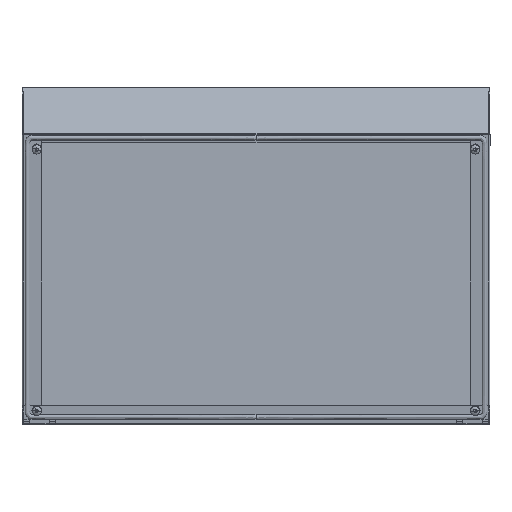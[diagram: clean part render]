
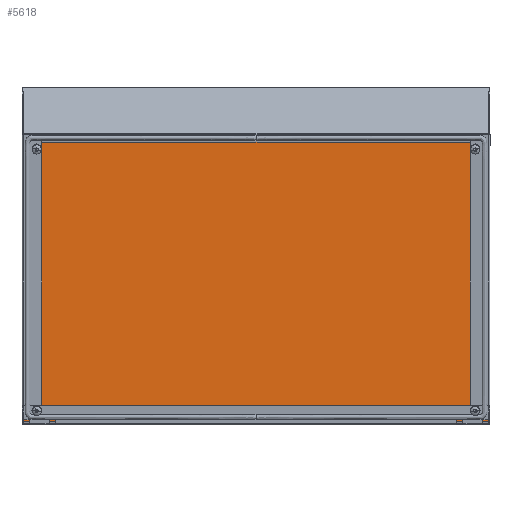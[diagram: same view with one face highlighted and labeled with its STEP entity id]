
A CAD part, front view. The second image highlights one B-rep face of the part: STEP entity #5618.
In plain terms, the highlighted planar face has unit normal (0, -1, 0).
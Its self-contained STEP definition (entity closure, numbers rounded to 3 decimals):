
#267 = EDGE_CURVE ( 'NONE', #2532, #4924, #13503, .T. ) ;
#569 = DIRECTION ( 'NONE',  ( 0., 0., 1. ) ) ;
#1084 = EDGE_CURVE ( 'NONE', #11335, #2532, #4856, .T. ) ;
#1152 = ORIENTED_EDGE ( 'NONE', *, *, #1084, .F. ) ;
#1212 = ORIENTED_EDGE ( 'NONE', *, *, #5432, .F. ) ;
#2532 = VERTEX_POINT ( 'NONE', #11641 ) ;
#2643 = VECTOR ( 'NONE', #11386, 1000. ) ;
#3147 = VECTOR ( 'NONE', #8741, 1000. ) ;
#3513 = CARTESIAN_POINT ( 'NONE',  ( -298.2, -1.2, 198.154 ) ) ;
#4077 = FACE_OUTER_BOUND ( 'NONE', #8609, .T. ) ;
#4856 = LINE ( 'NONE', #11787, #10847 ) ;
#4924 = VERTEX_POINT ( 'NONE', #9901 ) ;
#5124 = VERTEX_POINT ( 'NONE', #12067 ) ;
#5266 = ORIENTED_EDGE ( 'NONE', *, *, #8000, .F. ) ;
#5302 = CARTESIAN_POINT ( 'NONE',  ( 298.2, -1.2, -198.253 ) ) ;
#5432 = EDGE_CURVE ( 'NONE', #4924, #5124, #9052, .T. ) ;
#5618 = ADVANCED_FACE ( 'NONE', ( #4077 ), #6112, .F. ) ;
#5859 = CARTESIAN_POINT ( 'NONE',  ( -298.2, -1.2, -198.253 ) ) ;
#6064 = ORIENTED_EDGE ( 'NONE', *, *, #267, .F. ) ;
#6112 = PLANE ( 'NONE',  #10333 ) ;
#7664 = LINE ( 'NONE', #5302, #3147 ) ;
#7968 = DIRECTION ( 'NONE',  ( 1., 0., 0. ) ) ;
#8000 = EDGE_CURVE ( 'NONE', #5124, #11335, #7664, .T. ) ;
#8609 = EDGE_LOOP ( 'NONE', ( #6064, #1152, #5266, #1212 ) ) ;
#8741 = DIRECTION ( 'NONE',  ( -1., 0., 0. ) ) ;
#9052 = LINE ( 'NONE', #13492, #2643 ) ;
#9515 = VECTOR ( 'NONE', #7968, 1000. ) ;
#9901 = CARTESIAN_POINT ( 'NONE',  ( 298.2, -1.2, 198.154 ) ) ;
#10333 = AXIS2_PLACEMENT_3D ( 'NONE', #13045, #10793, #569 ) ;
#10627 = DIRECTION ( 'NONE',  ( 0., 0., 1. ) ) ;
#10793 = DIRECTION ( 'NONE',  ( 0., 1., 0. ) ) ;
#10847 = VECTOR ( 'NONE', #10627, 1000. ) ;
#11335 = VERTEX_POINT ( 'NONE', #5859 ) ;
#11386 = DIRECTION ( 'NONE',  ( 0., 0., -1. ) ) ;
#11641 = CARTESIAN_POINT ( 'NONE',  ( -298.2, -1.2, 198.154 ) ) ;
#11787 = CARTESIAN_POINT ( 'NONE',  ( -298.2, -1.2, 200. ) ) ;
#12067 = CARTESIAN_POINT ( 'NONE',  ( 298.2, -1.2, -198.253 ) ) ;
#13045 = CARTESIAN_POINT ( 'NONE',  ( 0., -1.2, 0. ) ) ;
#13492 = CARTESIAN_POINT ( 'NONE',  ( 298.2, -1.2, 200. ) ) ;
#13503 = LINE ( 'NONE', #3513, #9515 ) ;
